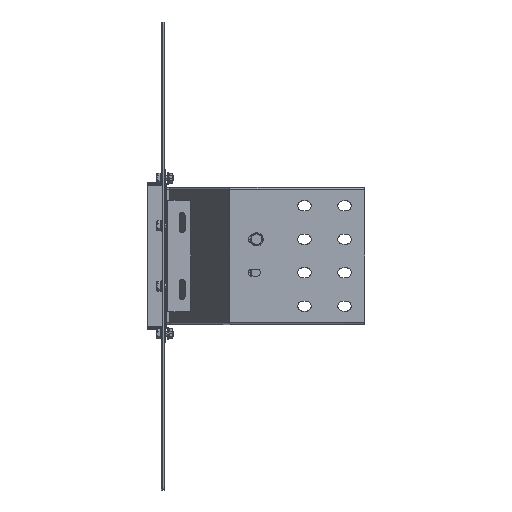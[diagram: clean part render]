
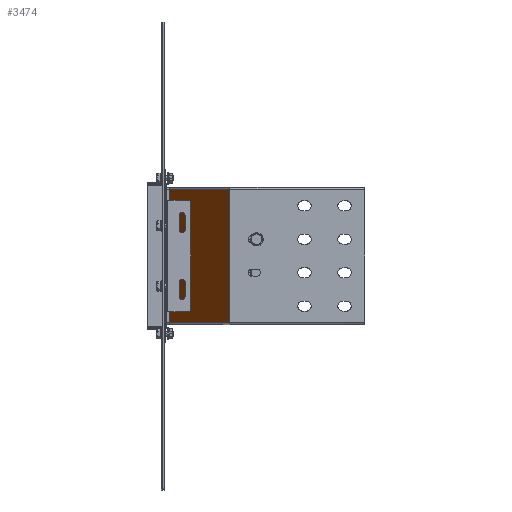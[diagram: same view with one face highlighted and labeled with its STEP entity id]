
A CAD part, front view. The second image highlights one B-rep face of the part: STEP entity #3474.
In plain terms, the highlighted planar face has unit normal (-0.915, -0.403, 0).
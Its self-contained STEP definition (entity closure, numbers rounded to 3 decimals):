
#3466=AXIS2_PLACEMENT_3D('Plane Axis2P3D',#3463,#3464,#3465) ;
#1854=CARTESIAN_POINT('Vertex',(97.945,-218.15,-99.35)) ;
#1868=CARTESIAN_POINT('Vertex',(97.945,-218.15,99.35)) ;
#1871=CARTESIAN_POINT('Line Origine',(97.945,-218.15,0.)) ;
#2668=CARTESIAN_POINT('Vertex',(7.945,-13.74,99.35)) ;
#2671=CARTESIAN_POINT('Line Origine',(52.117,-114.064,99.35)) ;
#2778=CARTESIAN_POINT('Vertex',(7.945,-13.74,-99.35)) ;
#2819=CARTESIAN_POINT('Line Origine',(52.117,-114.064,-99.35)) ;
#2867=CARTESIAN_POINT('Line Origine',(7.945,-13.74,0.)) ;
#3463=CARTESIAN_POINT('Axis2P3D Location',(98.773,-220.031,-99.35)) ;
#1872=DIRECTION('Vector Direction',(0.,0.,1.)) ;
#2672=DIRECTION('Vector Direction',(0.403,-0.915,0.)) ;
#2820=DIRECTION('Vector Direction',(0.403,-0.915,0.)) ;
#2868=DIRECTION('Vector Direction',(0.,0.,1.)) ;
#3464=DIRECTION('Axis2P3D Direction',(-0.915,-0.403,0.)) ;
#3465=DIRECTION('Axis2P3D XDirection',(0.,0.,1.)) ;
#1873=VECTOR('Line Direction',#1872,1.) ;
#2673=VECTOR('Line Direction',#2672,1.) ;
#2821=VECTOR('Line Direction',#2820,1.) ;
#2869=VECTOR('Line Direction',#2868,1.) ;
#3469=ORIENTED_EDGE('',*,*,#2675,.T.) ;
#3470=ORIENTED_EDGE('',*,*,#2871,.F.) ;
#3471=ORIENTED_EDGE('',*,*,#2823,.F.) ;
#3472=ORIENTED_EDGE('',*,*,#1875,.T.) ;
#3474=ADVANCED_FACE('N',(#3473),#3467,.T.) ;
#1875=EDGE_CURVE('',#1855,#1869,#1874,.T.) ;
#2675=EDGE_CURVE('',#1869,#2669,#2674,.F.) ;
#2823=EDGE_CURVE('',#1855,#2779,#2822,.F.) ;
#2871=EDGE_CURVE('',#2779,#2669,#2870,.T.) ;
#3468=EDGE_LOOP('',(#3469,#3470,#3471,#3472)) ;
#3473=FACE_OUTER_BOUND('',#3468,.T.) ;
#1874=LINE('Line',#1871,#1873) ;
#2674=LINE('Line',#2671,#2673) ;
#2822=LINE('Line',#2819,#2821) ;
#2870=LINE('Line',#2867,#2869) ;
#3467=PLANE('',#3466) ;
#1855=VERTEX_POINT('',#1854) ;
#1869=VERTEX_POINT('',#1868) ;
#2669=VERTEX_POINT('',#2668) ;
#2779=VERTEX_POINT('',#2778) ;
